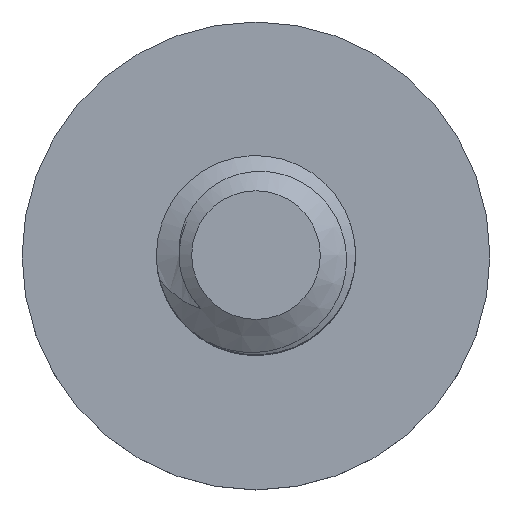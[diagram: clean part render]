
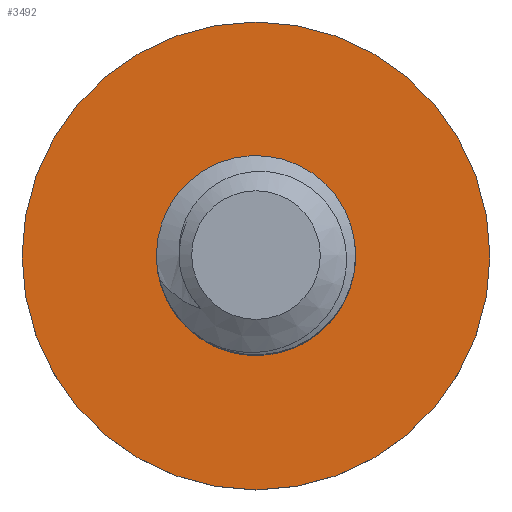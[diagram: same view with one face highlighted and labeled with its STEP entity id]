
A CAD part, top view. The second image highlights one B-rep face of the part: STEP entity #3492.
In plain terms, the highlighted planar face has unit normal (0, 0, 1).
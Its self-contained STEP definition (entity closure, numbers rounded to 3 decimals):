
#502=CARTESIAN_POINT('',(1.954,-0.429,-10.0));
#503=VERTEX_POINT('',#502);
#3155=CARTESIAN_POINT('',(1.69,1.07,-10.0));
#3156=VERTEX_POINT('',#3155);
#3316=CARTESIAN_POINT('',(0.,0.,-10.0));
#3317=DIRECTION('',(0.0,0.0,1.0));
#3318=DIRECTION('',(-1.0,0.0,0.0));
#3319=AXIS2_PLACEMENT_3D('',#3316,#3317,#3318);
#3320=CIRCLE('',#3319,2.);
#3321=EDGE_CURVE('',#3156,#503,#3320,.T.);
#3344=CARTESIAN_POINT('',(0.0,0.0,-10.0));
#3345=DIRECTION('',(0.0,0.0,1.0));
#3346=DIRECTION('',(1.0,0.0,0.0));
#3347=AXIS2_PLACEMENT_3D('',#3344,#3345,#3346);
#3348=CIRCLE('',#3347,2.0);
#3349=EDGE_CURVE('',#503,#3156,#3348,.T.);
#3472=CARTESIAN_POINT('',(0.0,0.0,-10.0));
#3473=DIRECTION('',(0.0,0.0,-1.0));
#3474=DIRECTION('',(-1.0,0.0,0.0));
#3475=AXIS2_PLACEMENT_3D('',#3472,#3473,#3474);
#3476=PLANE('',#3475);
#3477=CARTESIAN_POINT('',(4.7,0.0,-10.0));
#3478=VERTEX_POINT('',#3477);
#3479=CARTESIAN_POINT('',(0.0,0.0,-10.0));
#3480=DIRECTION('',(0.0,0.0,1.0));
#3481=DIRECTION('',(1.0,0.0,0.0));
#3482=AXIS2_PLACEMENT_3D('',#3479,#3480,#3481);
#3483=CIRCLE('',#3482,4.7);
#3484=EDGE_CURVE('',#3478,#3478,#3483,.T.);
#3485=ORIENTED_EDGE('',*,*,#3484,.T.);
#3486=EDGE_LOOP('',(#3485));
#3487=FACE_OUTER_BOUND('',#3486,.T.);
#3488=ORIENTED_EDGE('',*,*,#3321,.F.);
#3489=ORIENTED_EDGE('',*,*,#3349,.F.);
#3490=EDGE_LOOP('',(#3488,#3489));
#3491=FACE_BOUND('',#3490,.T.);
#3492=ADVANCED_FACE('',(#3487,#3491),#3476,.F.);
